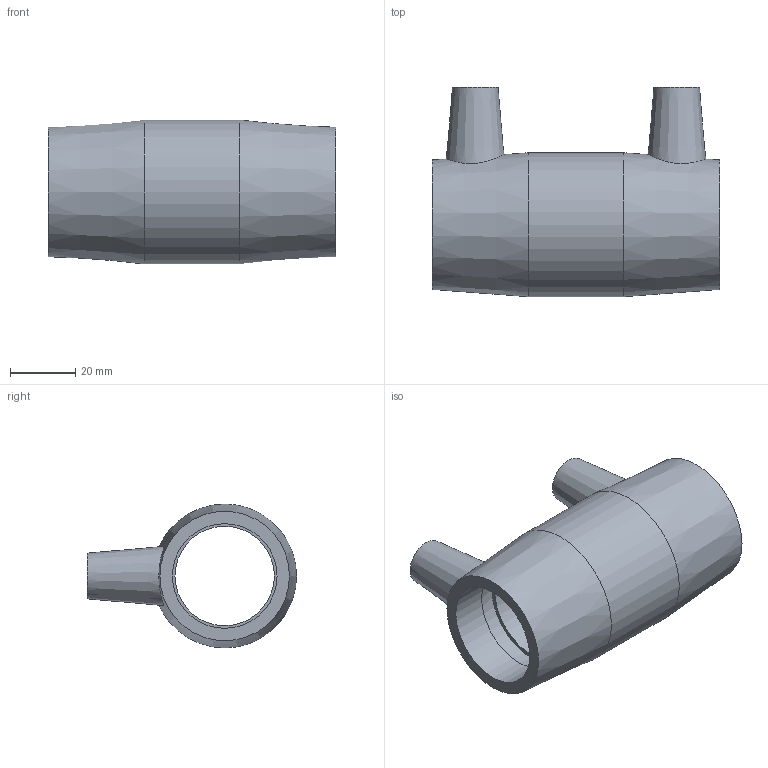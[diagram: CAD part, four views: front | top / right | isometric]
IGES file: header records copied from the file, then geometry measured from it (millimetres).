
Global section: file name: 490104032.ipt; native system: Autodesk Inventor 2015; preprocessor: unknown; author: KIM; date: 20171106.093542; units: millimetre
Bounding box: 88 x 64 x 44 mm (x, y, z)
Volume: 60775.5 mm3; surface area: 25117.2 mm2
Topology: 1 solids, 1 shells, 28 faces, 64 edges, 46 vertices
Faces by surface type: plane 12, revolution 9, cone 4, cylinder 3
Full cylindrical faces by diameter (mm): 4 x2, 44 x1
